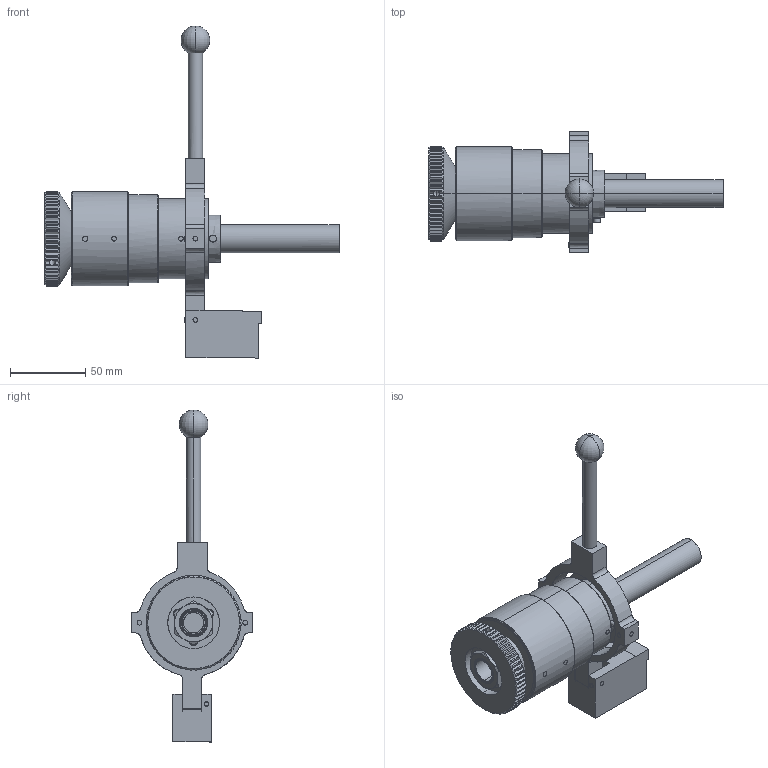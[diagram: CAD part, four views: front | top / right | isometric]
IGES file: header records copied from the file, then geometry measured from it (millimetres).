
Start section: Comment
Global section: file name: 3c lever collet closer W  11520 ND.igs; native system:  By Spatial Corp.; preprocessor: XPlus PS/IGES 3.0; author: Author; organization: Title; date: 20180214.111114; units: inch
Bounding box: 195.28 x 80.97 x 220.47 mm (x, y, z)
Surface area: 102908.5 mm2 (no closed solid volume)
Topology: 0 solids, 0 shells, 953 faces, 4903 edges, 4885 vertices
Faces by surface type: revolution 581, extrusion 368, bspline 4
